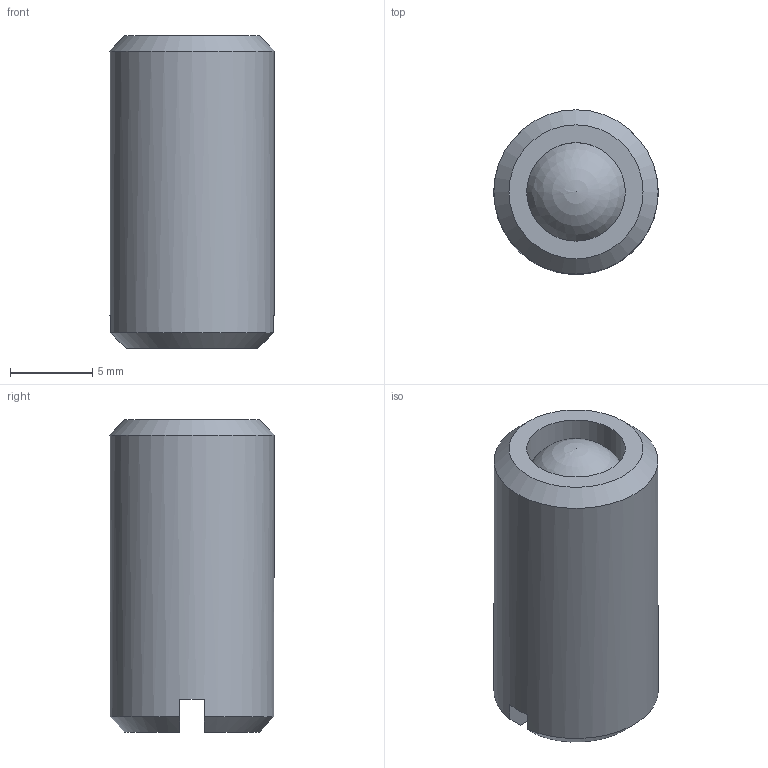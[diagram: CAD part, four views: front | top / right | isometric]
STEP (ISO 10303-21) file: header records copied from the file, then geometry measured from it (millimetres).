
FILE_DESCRIPTION( ( 'STEP AP203' ), '1' );
FILE_NAME( 'C:/Temp/Ganter_Step_05_03_2020/data/3_1/gn615_2/Plastic-Spring plunger GN 615.2-M10-NI (activated).stp', '2020-03-12T08:38:40', ( 'License CC BY-ND 4.0' ), ( 'CADENAS' ), ' ', 'PARTsolutions', ' ' );
FILE_SCHEMA( ( 'CONFIG_CONTROL_DESIGN' ) );
Length unit declared in the file: millimetre
Products named in the file (1): _Plastic-Spring plunger GN 615.2-M10-NI (activated)
Bounding box: 10 x 10 x 19 mm (x, y, z)
Volume: 1415.4 mm3; surface area: 798.5 mm2
Topology: 1 solids, 1 shells, 12 faces, 30 edges, 20 vertices
Faces by surface type: plane 6, cone 3, cylinder 2, sphere 1
Full cylindrical faces by diameter (mm): 6 x1, 10 x1
Entity records: 360 total; most frequent: CARTESIAN_POINT 64, DIRECTION 54, ORIENTED_EDGE 44, AXIS2_PLACEMENT_3D 23, EDGE_CURVE 22, VERTEX_POINT 17, EDGE_LOOP 16, FACE_OUTER_BOUND 14
